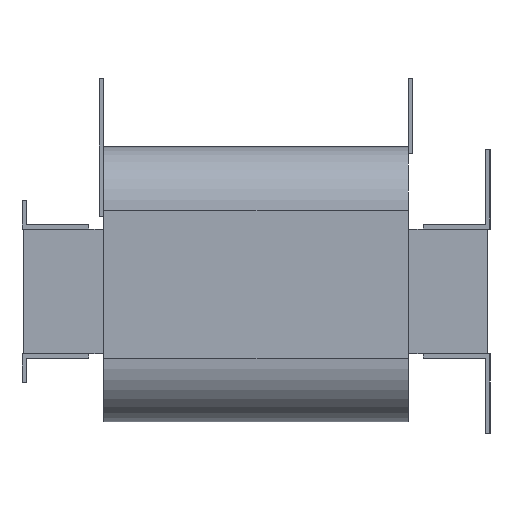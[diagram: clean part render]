
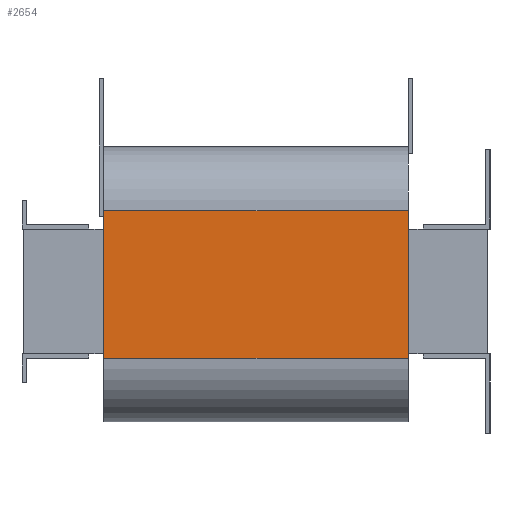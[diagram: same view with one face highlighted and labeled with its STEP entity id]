
A CAD part, left-side view. The second image highlights one B-rep face of the part: STEP entity #2654.
In plain terms, the highlighted planar face has unit normal (-1, 0, 0).
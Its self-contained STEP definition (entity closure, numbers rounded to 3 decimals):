
#114=PLANE('',#2858);
#243=FACE_OUTER_BOUND('',#393,.T.);
#393=EDGE_LOOP('',(#2278,#2279,#2280,#2281));
#670=LINE('',#4169,#996);
#689=LINE('',#4219,#1015);
#690=LINE('',#4222,#1016);
#691=LINE('',#4223,#1017);
#996=VECTOR('',#3404,10.);
#1015=VECTOR('',#3449,10.);
#1016=VECTOR('',#3452,10.);
#1017=VECTOR('',#3453,10.);
#1331=VERTEX_POINT('',#4166);
#1332=VERTEX_POINT('',#4168);
#1350=VERTEX_POINT('',#4217);
#1351=VERTEX_POINT('',#4221);
#1661=EDGE_CURVE('',#1331,#1332,#670,.T.);
#1687=EDGE_CURVE('',#1350,#1331,#689,.T.);
#1688=EDGE_CURVE('',#1350,#1351,#690,.T.);
#1689=EDGE_CURVE('',#1332,#1351,#691,.T.);
#2278=ORIENTED_EDGE('',*,*,#1687,.F.);
#2279=ORIENTED_EDGE('',*,*,#1688,.T.);
#2280=ORIENTED_EDGE('',*,*,#1689,.F.);
#2281=ORIENTED_EDGE('',*,*,#1661,.F.);
#2654=ADVANCED_FACE('',(#243),#114,.T.);
#2858=AXIS2_PLACEMENT_3D('',#4220,#3450,#3451);
#3404=DIRECTION('',(0.,0.,1.));
#3449=DIRECTION('',(0.,1.,0.));
#3450=DIRECTION('center_axis',(-1.,0.,0.));
#3451=DIRECTION('ref_axis',(0.,0.,1.));
#3452=DIRECTION('',(0.,0.,1.));
#3453=DIRECTION('',(0.,-1.,0.));
#4166=CARTESIAN_POINT('',(-243.,272.5,-47.));
#4168=CARTESIAN_POINT('',(-243.,272.5,57.));
#4169=CARTESIAN_POINT('',(-243.,272.5,-92.));
#4217=CARTESIAN_POINT('',(-243.,57.5,-47.));
#4219=CARTESIAN_POINT('',(-243.,57.5,-47.));
#4220=CARTESIAN_POINT('Origin',(-243.,57.5,-92.));
#4221=CARTESIAN_POINT('',(-243.,57.5,57.));
#4222=CARTESIAN_POINT('',(-243.,57.5,-92.));
#4223=CARTESIAN_POINT('',(-243.,57.5,57.));
